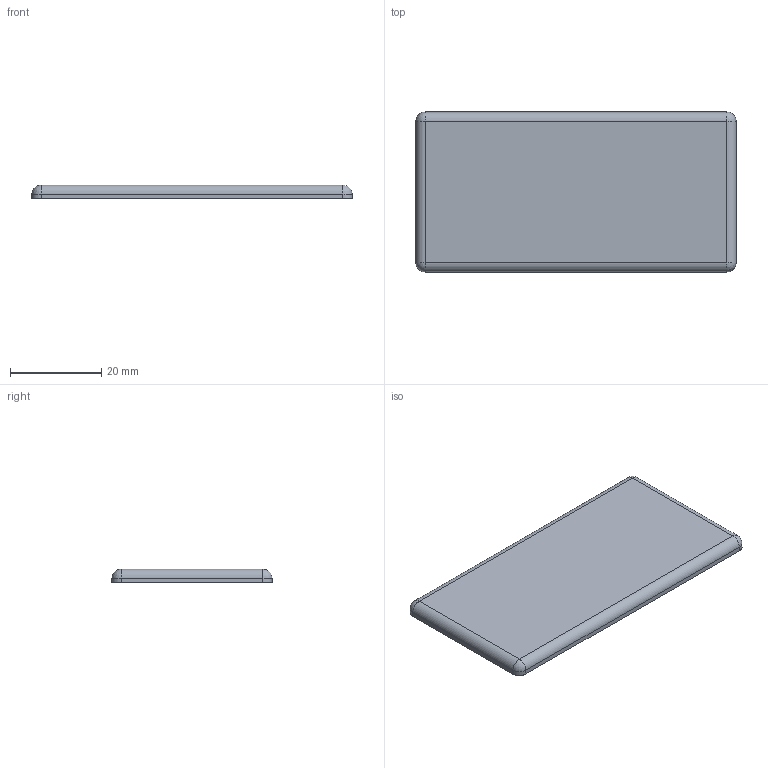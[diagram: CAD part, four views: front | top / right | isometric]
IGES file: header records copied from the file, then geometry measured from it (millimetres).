
Start section: SolidWorks IGES file using analytic representation for surfaces
Global section: file name: C:\Documents and Settings\Administrator\デスクトップ\指定保存後3回目\SolidWorks\SF\SF30\Parts\SFA-032.IGS; native system: SolidWorks 2006 by SolidWorks Corporation; preprocessor: SolidWorks 2006 by SolidWorks Corporation; author: Administrator; date: 061213.105115; units: millimetre
Bounding box: 70 x 35 x 3 mm (x, y, z)
Surface area: 5333.7 mm2 (no closed solid volume)
Topology: 0 solids, 0 shells, 18 faces, 140 edges, 172 vertices
Faces by surface type: revolution 12, bspline 6
